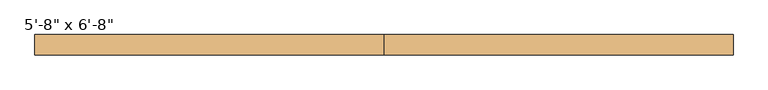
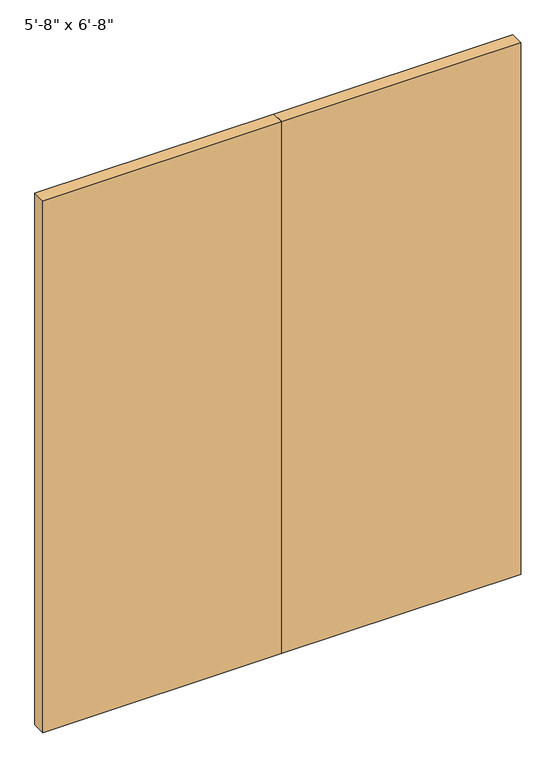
"""IFC4 building model written with IfcOpenShell, lengths in millimetres: door geometry."""

from ifc_helpers import new_model, si_unit, origin, origin_with_axes, place, context, project, spatial, polyline, outline, extrude, source, transform, mapped, element, save


def door_cbdf6a67(model_context):
    return source(origin(), model_context, "Body", "SweptSolid", [
        extrude(outline(polyline([(0.0, 76.2), (863.6, 76.2), (863.6, 26.2), (0.0, 26.2), (0.0, 76.2)])), origin_with_axes(), (0.0, 0.0, 1.0), 2032.0),
        extrude(outline(polyline([(-863.6, 76.2), (0.0, 76.2), (0.0, 26.2), (-863.6, 26.2), (-863.6, 76.2)])), origin_with_axes(), (0.0, 0.0, 1.0), 2032.0),
    ])


if __name__ == "__main__":
    model = new_model("IFC4")
    model_context = context("Model", 3, world=origin())
    ifc_project = project(units=[si_unit("LENGTHUNIT", "METRE", prefix="MILLI")], contexts=[model_context])
    site = spatial("IfcSite", under=ifc_project)
    building = spatial("IfcBuilding", under=site)
    placement = place(None, origin())
    door_shape = door_cbdf6a67(model_context)
    element("IfcDoor", 1, ObjectType="Planitar - Double Door_Flush Panel : 5'-8\" x 6'-8\"", at=placement, inside=building, context=model_context, shape_type="MappedRepresentation", body=[
        mapped(door_shape, transform((0.0, 0.0, 0.0), x_axis=(1.0, 0.0, 0.0), y_axis=(0.0, 1.0, 0.0), z_axis=(0.0, 0.0, 1.0))),
    ])
    save(model, "model.ifc")
